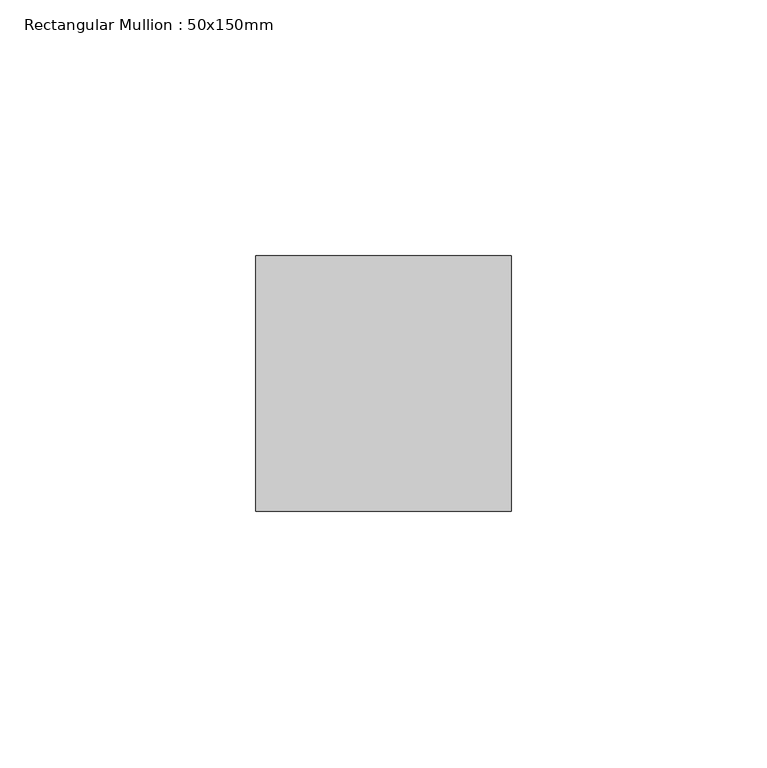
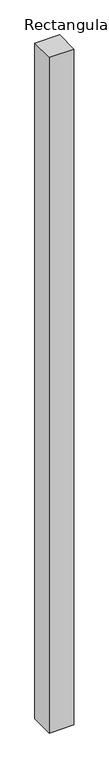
"""IFC4 building model written with IfcOpenShell, lengths in millimetres: member geometry, Rectangular Mullion : 50x150mm."""

from ifc_helpers import new_model, si_unit, frame, origin, place, context, project, spatial, polyline, outline, extrude, source, transform, mapped, element, save


def rectangular_mullion_50x150mm_a088287e(model_context):
    return source(origin(), model_context, "Body", "SweptSolid", [
        extrude(outline(polyline([(25.0, 25.0), (25.0, -25.0), (-25.0, -25.0), (-25.0, 25.0), (25.0, 25.0)])), frame((0.0, 0.0, -1450.0), z_axis=(0.0, 0.0, 1.0), x_axis=(1.0, 0.0, 0.0)), (0.0, 0.0, 1.0), 1450.0),
    ])


if __name__ == "__main__":
    model = new_model("IFC4")
    model_context = context("Model", 3, world=origin())
    ifc_project = project(units=[si_unit("LENGTHUNIT", "METRE", prefix="MILLI")], contexts=[model_context])
    site = spatial("IfcSite", under=ifc_project)
    building = spatial("IfcBuilding", under=site)
    placement = place(None, origin())
    rectangular_mullion_50x150mm_shape = rectangular_mullion_50x150mm_a088287e(model_context)
    element("IfcMember", 1, ObjectType="Rectangular Mullion : 50x150mm", at=placement, inside=building, context=model_context, shape_type="MappedRepresentation", body=[
        mapped(rectangular_mullion_50x150mm_shape, transform((0.0, 0.0, 0.0), x_axis=(1.0, 0.0, 0.0), y_axis=(0.0, 1.0, 0.0), z_axis=(0.0, 0.0, 1.0))),
    ])
    save(model, "model.ifc")
